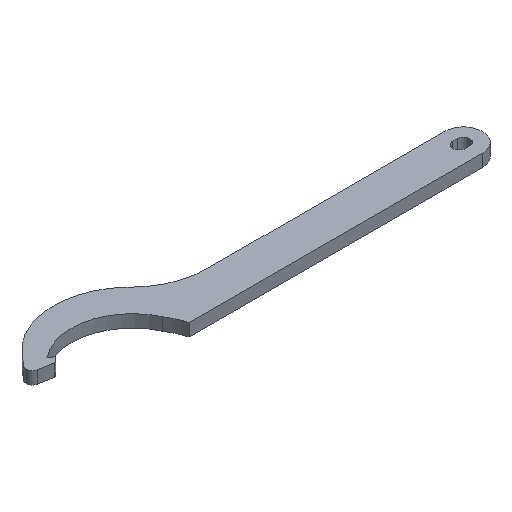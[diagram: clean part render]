
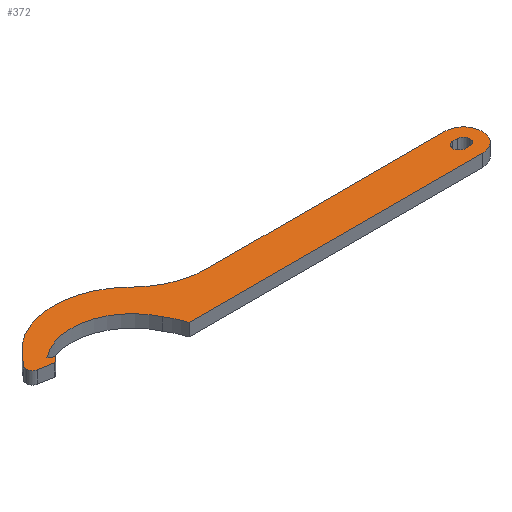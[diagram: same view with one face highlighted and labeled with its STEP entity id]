
A CAD part, isometric view. The second image highlights one B-rep face of the part: STEP entity #372.
In plain terms, the highlighted planar face has unit normal (0, 0, 1).
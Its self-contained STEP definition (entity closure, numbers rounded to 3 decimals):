
#3 = DIRECTION ( 'NONE',  ( 0., 0., -1. ) ) ;
#4 = EDGE_CURVE ( 'NONE', #186, #236, #79, .T. ) ;
#8 = DIRECTION ( 'NONE',  ( 1., 0., 0. ) ) ;
#12 = CARTESIAN_POINT ( 'NONE',  ( 199.5, 7.5, 3.5 ) ) ;
#13 = DIRECTION ( 'NONE',  ( 1., 0., 0. ) ) ;
#21 = CARTESIAN_POINT ( 'NONE',  ( 199.5, 18., 3.5 ) ) ;
#24 = ORIENTED_EDGE ( 'NONE', *, *, #684, .F. ) ;
#26 = VERTEX_POINT ( 'NONE', #394 ) ;
#31 = CIRCLE ( 'NONE', #357, 3.5 ) ;
#35 = ORIENTED_EDGE ( 'NONE', *, *, #211, .F. ) ;
#46 = AXIS2_PLACEMENT_3D ( 'NONE', #185, #642, #85 ) ;
#52 = EDGE_CURVE ( 'NONE', #575, #247, #174, .T. ) ;
#58 = EDGE_CURVE ( 'NONE', #236, #609, #311, .T. ) ;
#60 = CARTESIAN_POINT ( 'NONE',  ( 0., -7., 3.5 ) ) ;
#63 = CIRCLE ( 'NONE', #318, 37.5 ) ;
#64 = DIRECTION ( 'NONE',  ( 0., 0., 1. ) ) ;
#68 = CARTESIAN_POINT ( 'NONE',  ( -18.235, 17.651, 3.5 ) ) ;
#73 = CARTESIAN_POINT ( 'NONE',  ( 199.5, -3., 3.5 ) ) ;
#77 = DIRECTION ( 'NONE',  ( 0., 0., -1. ) ) ;
#79 = LINE ( 'NONE', #127, #435 ) ;
#85 = DIRECTION ( 'NONE',  ( 1., 0., 0. ) ) ;
#86 = VERTEX_POINT ( 'NONE', #504 ) ;
#90 = VERTEX_POINT ( 'NONE', #21 ) ;
#103 = CARTESIAN_POINT ( 'NONE',  ( 30.946, 7.083, 3.5 ) ) ;
#109 = CARTESIAN_POINT ( 'NONE',  ( 66.522, 18., 3.5 ) ) ;
#110 = DIRECTION ( 'NONE',  ( 1., 0., 0. ) ) ;
#113 = CIRCLE ( 'NONE', #650, 34. ) ;
#115 = FACE_OUTER_BOUND ( 'NONE', #514, .T. ) ;
#127 = CARTESIAN_POINT ( 'NONE',  ( -27.04, 27.64, 3.5 ) ) ;
#130 = ORIENTED_EDGE ( 'NONE', *, *, #453, .T. ) ;
#133 = CARTESIAN_POINT ( 'NONE',  ( -18.235, 17.651, 3.5 ) ) ;
#135 = ORIENTED_EDGE ( 'NONE', *, *, #449, .T. ) ;
#141 = ORIENTED_EDGE ( 'NONE', *, *, #4, .T. ) ;
#148 = ORIENTED_EDGE ( 'NONE', *, *, #52, .T. ) ;
#151 = LINE ( 'NONE', #612, #404 ) ;
#165 = LINE ( 'NONE', #588, #359 ) ;
#170 = AXIS2_PLACEMENT_3D ( 'NONE', #12, #332, #8 ) ;
#172 = DIRECTION ( 'NONE',  ( -1., 0., 0. ) ) ;
#174 = LINE ( 'NONE', #180, #670 ) ;
#175 = LINE ( 'NONE', #133, #610 ) ;
#180 = CARTESIAN_POINT ( 'NONE',  ( -21.349, 14.948, 3.5 ) ) ;
#181 = DIRECTION ( 'NONE',  ( -1., 0., 0. ) ) ;
#185 = CARTESIAN_POINT ( 'NONE',  ( 197., 7.5, 3.5 ) ) ;
#186 = VERTEX_POINT ( 'NONE', #297 ) ;
#191 = EDGE_LOOP ( 'NONE', ( #24, #35, #654, #667, #469 ) ) ;
#194 = ORIENTED_EDGE ( 'NONE', *, *, #319, .T. ) ;
#208 = CARTESIAN_POINT ( 'NONE',  ( 36.211, 30.5, 3.5 ) ) ;
#211 = EDGE_CURVE ( 'NONE', #448, #26, #151, .T. ) ;
#217 = CARTESIAN_POINT ( 'NONE',  ( 197., 7.5, 3.5 ) ) ;
#225 = CIRCLE ( 'NONE', #170, 3.5 ) ;
#226 = DIRECTION ( 'NONE',  ( -0.643, -0.766, 0. ) ) ;
#227 = DIRECTION ( 'NONE',  ( 0., 0., 1. ) ) ;
#228 = DIRECTION ( 'NONE',  ( 0.755, 0.656, 0. ) ) ;
#231 = CARTESIAN_POINT ( 'NONE',  ( 199.5, 18., 3.5 ) ) ;
#236 = VERTEX_POINT ( 'NONE', #250 ) ;
#237 = ORIENTED_EDGE ( 'NONE', *, *, #374, .T. ) ;
#243 = CIRCLE ( 'NONE', #348, 43. ) ;
#245 = ORIENTED_EDGE ( 'NONE', *, *, #624, .T. ) ;
#247 = VERTEX_POINT ( 'NONE', #671 ) ;
#248 = AXIS2_PLACEMENT_3D ( 'NONE', #496, #380, #597 ) ;
#250 = CARTESIAN_POINT ( 'NONE',  ( -31.642, 22.156, 3.5 ) ) ;
#251 = ORIENTED_EDGE ( 'NONE', *, *, #573, .T. ) ;
#260 = DIRECTION ( 'NONE',  ( 1., 0., 0. ) ) ;
#263 = CARTESIAN_POINT ( 'NONE',  ( -0.4, -13.5, 3.5 ) ) ;
#268 = EDGE_CURVE ( 'NONE', #565, #416, #310, .T. ) ;
#269 = DIRECTION ( 'NONE',  ( -1., 0., 0. ) ) ;
#270 = LINE ( 'NONE', #486, #686 ) ;
#272 = VECTOR ( 'NONE', #181, 1000. ) ;
#273 = DIRECTION ( 'NONE',  ( 1., 0., 0. ) ) ;
#279 = EDGE_CURVE ( 'NONE', #390, #86, #175, .T. ) ;
#280 = CARTESIAN_POINT ( 'NONE',  ( 66.522, 61., 3.5 ) ) ;
#297 = CARTESIAN_POINT ( 'NONE',  ( -27.04, 27.64, 3.5 ) ) ;
#309 = DIRECTION ( 'NONE',  ( 0., 0., -1. ) ) ;
#310 = CIRCLE ( 'NONE', #46, 3.5 ) ;
#311 = CIRCLE ( 'NONE', #248, 3.5 ) ;
#318 = AXIS2_PLACEMENT_3D ( 'NONE', #263, #3, #110 ) ;
#319 = EDGE_CURVE ( 'NONE', #90, #507, #440, .T. ) ;
#330 = CARTESIAN_POINT ( 'NONE',  ( 66.522, 61., 3.5 ) ) ;
#332 = DIRECTION ( 'NONE',  ( 0., 0., 1. ) ) ;
#336 = FACE_BOUND ( 'NONE', #191, .T. ) ;
#340 = DIRECTION ( 'NONE',  ( -0.819, 0.574, 0. ) ) ;
#348 = AXIS2_PLACEMENT_3D ( 'NONE', #497, #227, #13 ) ;
#357 = AXIS2_PLACEMENT_3D ( 'NONE', #594, #64, #273 ) ;
#359 = VECTOR ( 'NONE', #542, 1000. ) ;
#364 = DIRECTION ( 'NONE',  ( -1., 0., 0. ) ) ;
#372 = ADVANCED_FACE ( 'NONE', ( #115, #336 ), #603, .F. ) ;
#373 = CARTESIAN_POINT ( 'NONE',  ( 197., 4., 3.5 ) ) ;
#374 = EDGE_CURVE ( 'NONE', #408, #186, #243, .T. ) ;
#377 = EDGE_CURVE ( 'NONE', #507, #408, #631, .T. ) ;
#378 = CARTESIAN_POINT ( 'NONE',  ( 35.6, -3., 3.5 ) ) ;
#379 = CARTESIAN_POINT ( 'NONE',  ( -29.593, 16.464, 3.5 ) ) ;
#380 = DIRECTION ( 'NONE',  ( 0., 0., 1. ) ) ;
#387 = DIRECTION ( 'NONE',  ( 0.984, -0.181, 0. ) ) ;
#389 = CARTESIAN_POINT ( 'NONE',  ( 193.5, 7.5, 3.5 ) ) ;
#390 = VERTEX_POINT ( 'NONE', #68 ) ;
#391 = ORIENTED_EDGE ( 'NONE', *, *, #465, .T. ) ;
#394 = CARTESIAN_POINT ( 'NONE',  ( 197., 11., 3.5 ) ) ;
#398 = CARTESIAN_POINT ( 'NONE',  ( 199.5, 4., 3.5 ) ) ;
#402 = ORIENTED_EDGE ( 'NONE', *, *, #58, .T. ) ;
#403 = CIRCLE ( 'NONE', #488, 10.5 ) ;
#404 = VECTOR ( 'NONE', #364, 1000. ) ;
#408 = VERTEX_POINT ( 'NONE', #208 ) ;
#416 = VERTEX_POINT ( 'NONE', #373 ) ;
#423 = AXIS2_PLACEMENT_3D ( 'NONE', #217, #555, #660 ) ;
#429 = LINE ( 'NONE', #637, #645 ) ;
#432 = AXIS2_PLACEMENT_3D ( 'NONE', #330, #77, #546 ) ;
#435 = VECTOR ( 'NONE', #226, 1000. ) ;
#440 = LINE ( 'NONE', #231, #272 ) ;
#448 = VERTEX_POINT ( 'NONE', #538 ) ;
#449 = EDGE_CURVE ( 'NONE', #561, #90, #403, .T. ) ;
#452 = VERTEX_POINT ( 'NONE', #103 ) ;
#453 = EDGE_CURVE ( 'NONE', #452, #512, #63, .T. ) ;
#463 = AXIS2_PLACEMENT_3D ( 'NONE', #280, #648, #172 ) ;
#465 = EDGE_CURVE ( 'NONE', #86, #452, #113, .T. ) ;
#466 = ORIENTED_EDGE ( 'NONE', *, *, #659, .T. ) ;
#469 = ORIENTED_EDGE ( 'NONE', *, *, #268, .F. ) ;
#478 = CIRCLE ( 'NONE', #423, 3.5 ) ;
#481 = EDGE_CURVE ( 'NONE', #416, #677, #429, .T. ) ;
#483 = DIRECTION ( 'NONE',  ( 0., 0., 1. ) ) ;
#486 = CARTESIAN_POINT ( 'NONE',  ( -21.349, 14.948, 3.5 ) ) ;
#488 = AXIS2_PLACEMENT_3D ( 'NONE', #688, #483, #577 ) ;
#496 = CARTESIAN_POINT ( 'NONE',  ( -28.96, 19.906, 3.5 ) ) ;
#497 = CARTESIAN_POINT ( 'NONE',  ( 5.9, 0., 3.5 ) ) ;
#504 = CARTESIAN_POINT ( 'NONE',  ( -21.102, 19.659, 3.5 ) ) ;
#507 = VERTEX_POINT ( 'NONE', #109 ) ;
#512 = VERTEX_POINT ( 'NONE', #378 ) ;
#514 = EDGE_LOOP ( 'NONE', ( #558, #237, #141, #402, #466, #148, #251, #527, #391, #130, #245, #135, #194 ) ) ;
#527 = ORIENTED_EDGE ( 'NONE', *, *, #279, .T. ) ;
#538 = CARTESIAN_POINT ( 'NONE',  ( 199.5, 11., 3.5 ) ) ;
#542 = DIRECTION ( 'NONE',  ( 1., 0., 0. ) ) ;
#546 = DIRECTION ( 'NONE',  ( -1., 0., 0. ) ) ;
#555 = DIRECTION ( 'NONE',  ( 0., 0., 1. ) ) ;
#558 = ORIENTED_EDGE ( 'NONE', *, *, #377, .T. ) ;
#561 = VERTEX_POINT ( 'NONE', #73 ) ;
#565 = VERTEX_POINT ( 'NONE', #389 ) ;
#573 = EDGE_CURVE ( 'NONE', #247, #390, #270, .T. ) ;
#575 = VERTEX_POINT ( 'NONE', #379 ) ;
#577 = DIRECTION ( 'NONE',  ( 1., 0., 0. ) ) ;
#588 = CARTESIAN_POINT ( 'NONE',  ( 35.6, -3., 3.5 ) ) ;
#594 = CARTESIAN_POINT ( 'NONE',  ( -28.96, 19.906, 3.5 ) ) ;
#595 = EDGE_CURVE ( 'NONE', #677, #448, #225, .T. ) ;
#597 = DIRECTION ( 'NONE',  ( 1., 0., 0. ) ) ;
#603 = PLANE ( 'NONE',  #463 ) ;
#609 = VERTEX_POINT ( 'NONE', #641 ) ;
#610 = VECTOR ( 'NONE', #340, 1000. ) ;
#612 = CARTESIAN_POINT ( 'NONE',  ( 197., 11., 3.5 ) ) ;
#624 = EDGE_CURVE ( 'NONE', #512, #561, #165, .T. ) ;
#631 = CIRCLE ( 'NONE', #432, 43. ) ;
#637 = CARTESIAN_POINT ( 'NONE',  ( 197., 4., 3.5 ) ) ;
#641 = CARTESIAN_POINT ( 'NONE',  ( -32.46, 19.906, 3.5 ) ) ;
#642 = DIRECTION ( 'NONE',  ( 0., 0., 1. ) ) ;
#645 = VECTOR ( 'NONE', #260, 1000. ) ;
#648 = DIRECTION ( 'NONE',  ( 0., 0., -1. ) ) ;
#650 = AXIS2_PLACEMENT_3D ( 'NONE', #60, #309, #269 ) ;
#654 = ORIENTED_EDGE ( 'NONE', *, *, #595, .F. ) ;
#659 = EDGE_CURVE ( 'NONE', #609, #575, #31, .T. ) ;
#660 = DIRECTION ( 'NONE',  ( 1., 0., 0. ) ) ;
#667 = ORIENTED_EDGE ( 'NONE', *, *, #481, .F. ) ;
#670 = VECTOR ( 'NONE', #387, 1000. ) ;
#671 = CARTESIAN_POINT ( 'NONE',  ( -21.349, 14.948, 3.5 ) ) ;
#677 = VERTEX_POINT ( 'NONE', #398 ) ;
#684 = EDGE_CURVE ( 'NONE', #26, #565, #478, .T. ) ;
#686 = VECTOR ( 'NONE', #228, 1000. ) ;
#688 = CARTESIAN_POINT ( 'NONE',  ( 199.5, 7.5, 3.5 ) ) ;
